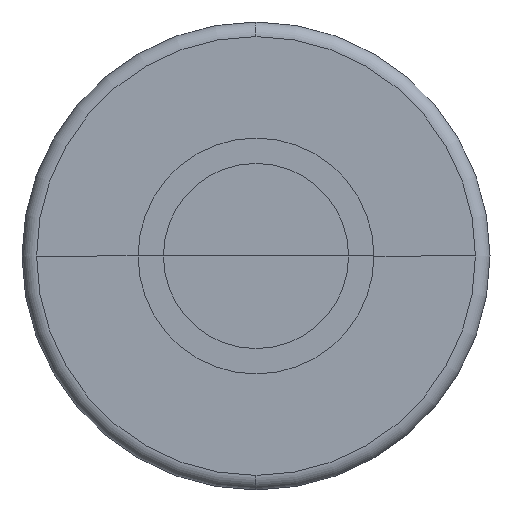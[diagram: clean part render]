
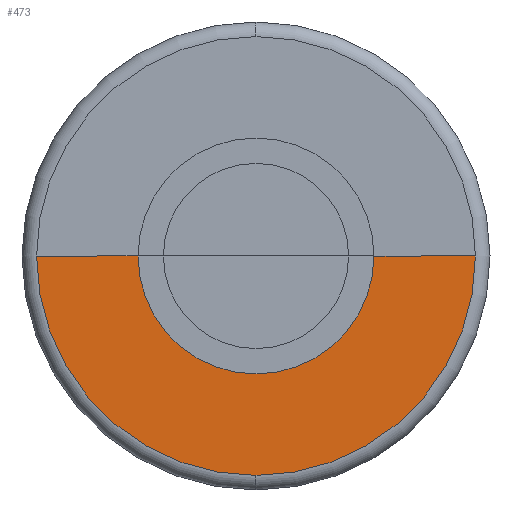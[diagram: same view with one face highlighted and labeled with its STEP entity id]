
A CAD part, left-side view. The second image highlights one B-rep face of the part: STEP entity #473.
In plain terms, the highlighted planar face has unit normal (-1, 0, 0).
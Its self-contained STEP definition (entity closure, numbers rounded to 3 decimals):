
#19 = VECTOR ( 'NONE', #423, 1000. ) ;
#27 = LINE ( 'NONE', #353, #19 ) ;
#30 = AXIS2_PLACEMENT_3D ( 'NONE', #176, #344, #503 ) ;
#65 = CARTESIAN_POINT ( 'NONE',  ( -27.2, 0., -15.05 ) ) ;
#68 = CIRCLE ( 'NONE', #672, 8.09 ) ;
#129 = EDGE_CURVE ( 'NONE', #681, #1025, #590, .T. ) ;
#146 = DIRECTION ( 'NONE',  ( -1., 0., 0. ) ) ;
#161 = CARTESIAN_POINT ( 'NONE',  ( -27.2, 0., 0. ) ) ;
#166 = CARTESIAN_POINT ( 'NONE',  ( -27.2, -8.09, 0. ) ) ;
#167 = DIRECTION ( 'NONE',  ( 0., -1., 0. ) ) ;
#172 = DIRECTION ( 'NONE',  ( 1., 0., 0. ) ) ;
#176 = CARTESIAN_POINT ( 'NONE',  ( -27.2, 0., 0. ) ) ;
#226 = ORIENTED_EDGE ( 'NONE', *, *, #975, .T. ) ;
#230 = DIRECTION ( 'NONE',  ( 0., 1., 0. ) ) ;
#261 = VERTEX_POINT ( 'NONE', #544 ) ;
#276 = DIRECTION ( 'NONE',  ( 0., -1., 0. ) ) ;
#319 = LINE ( 'NONE', #972, #514 ) ;
#344 = DIRECTION ( 'NONE',  ( -1., 0., 0. ) ) ;
#353 = CARTESIAN_POINT ( 'NONE',  ( -27.2, 8.09, 0. ) ) ;
#386 = ORIENTED_EDGE ( 'NONE', *, *, #129, .T. ) ;
#394 = EDGE_CURVE ( 'NONE', #1025, #461, #319, .T. ) ;
#412 = AXIS2_PLACEMENT_3D ( 'NONE', #708, #146, #944 ) ;
#423 = DIRECTION ( 'NONE',  ( 0., 1., 0. ) ) ;
#454 = ORIENTED_EDGE ( 'NONE', *, *, #913, .T. ) ;
#455 = CARTESIAN_POINT ( 'NONE',  ( -27.2, -15.05, 0. ) ) ;
#461 = VERTEX_POINT ( 'NONE', #166 ) ;
#471 = CIRCLE ( 'NONE', #612, 15.05 ) ;
#473 = ADVANCED_FACE ( 'NONE', ( #832 ), #485, .T. ) ;
#485 = PLANE ( 'NONE',  #30 ) ;
#503 = DIRECTION ( 'NONE',  ( 0., 1., 0. ) ) ;
#514 = VECTOR ( 'NONE', #230, 1000. ) ;
#521 = EDGE_CURVE ( 'NONE', #461, #261, #68, .T. ) ;
#530 = DIRECTION ( 'NONE',  ( -1., 0., 0. ) ) ;
#541 = VERTEX_POINT ( 'NONE', #991 ) ;
#544 = CARTESIAN_POINT ( 'NONE',  ( -27.2, 8.09, 0. ) ) ;
#590 = CIRCLE ( 'NONE', #412, 15.05 ) ;
#612 = AXIS2_PLACEMENT_3D ( 'NONE', #858, #530, #276 ) ;
#672 = AXIS2_PLACEMENT_3D ( 'NONE', #161, #172, #167 ) ;
#681 = VERTEX_POINT ( 'NONE', #65 ) ;
#708 = CARTESIAN_POINT ( 'NONE',  ( -27.2, 0., 0. ) ) ;
#798 = ORIENTED_EDGE ( 'NONE', *, *, #394, .T. ) ;
#799 = EDGE_LOOP ( 'NONE', ( #454, #226, #386, #798, #884 ) ) ;
#832 = FACE_OUTER_BOUND ( 'NONE', #799, .T. ) ;
#858 = CARTESIAN_POINT ( 'NONE',  ( -27.2, 0., 0. ) ) ;
#884 = ORIENTED_EDGE ( 'NONE', *, *, #521, .T. ) ;
#913 = EDGE_CURVE ( 'NONE', #261, #541, #27, .T. ) ;
#944 = DIRECTION ( 'NONE',  ( 0., -1., 0. ) ) ;
#972 = CARTESIAN_POINT ( 'NONE',  ( -27.2, -15.05, 0. ) ) ;
#975 = EDGE_CURVE ( 'NONE', #541, #681, #471, .T. ) ;
#991 = CARTESIAN_POINT ( 'NONE',  ( -27.2, 15.05, 0. ) ) ;
#1025 = VERTEX_POINT ( 'NONE', #455 ) ;
